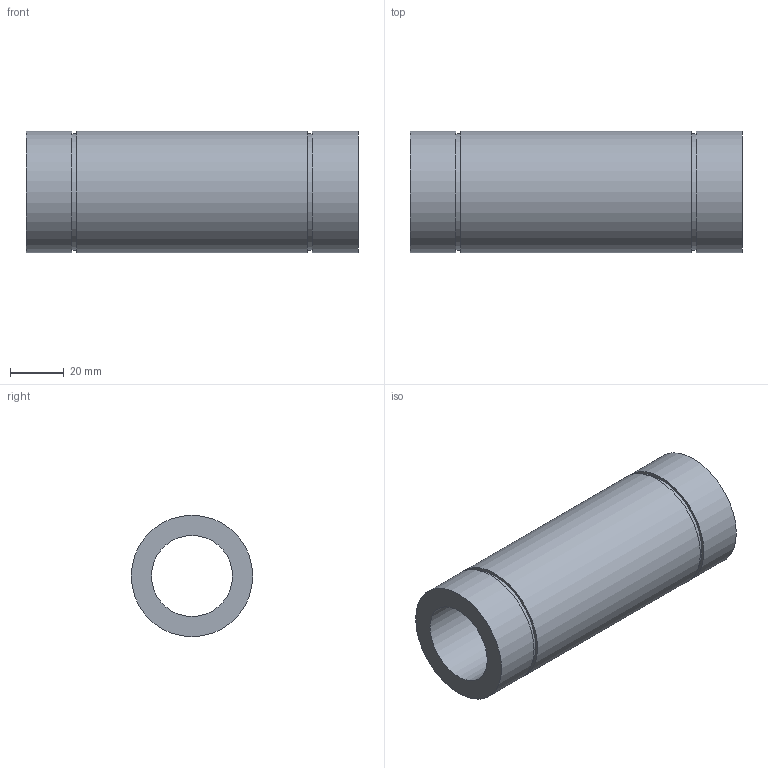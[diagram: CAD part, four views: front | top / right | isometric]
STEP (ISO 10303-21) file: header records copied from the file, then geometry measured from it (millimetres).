
FILE_DESCRIPTION(/* description */ ('Unknown'),/* implementation_level */ '2;1');
FILE_NAME(/* name */ 'LM30LUU',/* time_stamp */ '2025-02-03T15:02:36+08:00',/* author */ ('Unknown'),/* organization */ ('Unknown'),/* preprocessor_version */ 'ST-DEVELOPER v18.102',/* originating_system */ 'Solid Edge',/* authorisation */ 'Unknown');
FILE_SCHEMA (('AUTOMOTIVE_DESIGN {1 0 10303 214 3 1 1}'));
Length unit declared in the file: millimetre
Products named in the file (1): LM30LUU
Bounding box: 123 x 45 x 45 mm (x, y, z)
Volume: 108168 mm3; surface area: 31278 mm2
Topology: 1 solids, 1 shells, 12 faces, 20 edges, 14 vertices
Faces by surface type: cylinder 6, plane 6
Full cylindrical faces by diameter (mm): 30 x1, 43 x2, 45 x3
Entity records: 278 total; most frequent: DIRECTION 50, CARTESIAN_POINT 37, AXIS2_PLACEMENT_3D 25, ORIENTED_EDGE 24, EDGE_LOOP 24, FACE_BOUND 24, EDGE_CURVE 12, VERTEX_POINT 12
